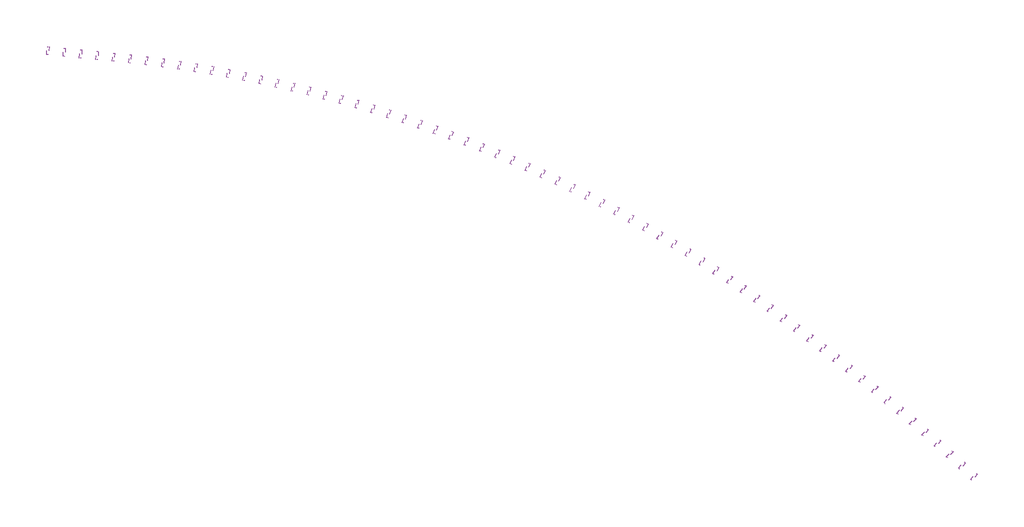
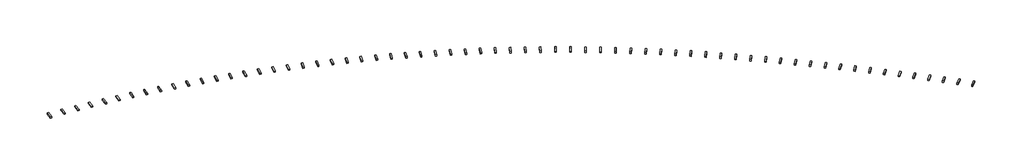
# One storey: 64 proxies.
"""IFC4 building model written with IfcOpenShell, lengths in millimetres."""

from ifc_helpers import new_model, si_unit, origin, place, context, project, spatial, transform, mapped, element, save
from components import generic_models_9758f732

model = new_model("IFC4")

# Units and contexts
model_context = context("Model", 3, world=origin())
ifc_project = project(units=[si_unit("LENGTHUNIT", "METRE", prefix="MILLI")], contexts=[model_context])

# Site, building, storey
site = spatial("IfcSite", under=ifc_project)
building = spatial("IfcBuilding", under=site)
storey = spatial("IfcBuildingStorey", under=building, Name="标高 2", Elevation=4000.0)

# Proxies
placement = place(None, origin())
generic_models_shape = generic_models_9758f732(model_context)
element("IfcBuildingElementProxy", 1, Name="Dynamo自动放置和旋转构件 : Dynamo自动放置和旋转构件", ObjectType="Dynamo自动放置和旋转构件 : Dynamo自动放置和旋转构件", at=placement, inside=storey, context=model_context, shape_type="MappedRepresentation", body=[
    mapped(generic_models_shape, transform((-282406.83332, 131306.0226466, 59323.0), x_axis=(0.9952009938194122, -0.09785183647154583, 0.0), y_axis=(0.09785183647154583, 0.9952009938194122, 0.0), z_axis=(0.0, 0.0, 1.0))),
])
element("IfcBuildingElementProxy", 2, Name="Dynamo自动放置和旋转构件 : Dynamo自动放置和旋转构件", ObjectType="Dynamo自动放置和旋转构件 : Dynamo自动放置和旋转构件", at=placement, inside=storey, context=model_context, shape_type="MappedRepresentation", body=[
    mapped(generic_models_shape, transform((-272454.8233807, 130327.504293, 59425.4497045), x_axis=(0.9952009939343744, -0.09785183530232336, 0.0), y_axis=(0.09785183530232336, 0.9952009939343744, 0.0), z_axis=(0.0, 0.0, 1.0))),
])
element("IfcBuildingElementProxy", 3, Name="Dynamo自动放置和旋转构件 : Dynamo自动放置和旋转构件", ObjectType="Dynamo自动放置和旋转构件 : Dynamo自动放置和旋转构件", at=placement, inside=storey, context=model_context, shape_type="MappedRepresentation", body=[
    mapped(generic_models_shape, transform((-262502.8134413, 129348.9859405, 59430.8094786), x_axis=(0.9952009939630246, -0.09785183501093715, 0.0), y_axis=(0.09785183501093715, 0.9952009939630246, 0.0), z_axis=(0.0, 0.0, 1.0))),
])
element("IfcBuildingElementProxy", 4, Name="Dynamo自动放置和旋转构件 : Dynamo自动放置和旋转构件", ObjectType="Dynamo自动放置和旋转构件 : Dynamo自动放置和旋转构件", at=placement, inside=storey, context=model_context, shape_type="MappedRepresentation", body=[
    mapped(generic_models_shape, transform((-252550.8034995, 128370.4675867, 59339.0774996), x_axis=(0.9952009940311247, -0.09785183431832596, 0.0), y_axis=(0.09785183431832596, 0.9952009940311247, 0.0), z_axis=(0.0, 0.0, 1.0))),
])
element("IfcBuildingElementProxy", 5, Name="Dynamo自动放置和旋转构件 : Dynamo自动放置和旋转构件", ObjectType="Dynamo自动放置和旋转构件 : Dynamo自动放置和旋转构件", at=placement, inside=storey, context=model_context, shape_type="MappedRepresentation", body=[
    mapped(generic_models_shape, transform((-242598.7928168, 127391.9568191, 59150.2215658), x_axis=(0.9952079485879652, -0.09778107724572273, 0.0), y_axis=(0.09778107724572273, 0.9952079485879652, 0.0), z_axis=(0.0, 0.0, 1.0))),
])
element("IfcBuildingElementProxy", 6, Name="Dynamo自动放置和旋转构件 : Dynamo自动放置和旋转构件", ObjectType="Dynamo自动放置和旋转构件 : Dynamo自动放置和旋转构件", at=placement, inside=storey, context=model_context, shape_type="MappedRepresentation", body=[
    mapped(generic_models_shape, transform((-232652.1536319, 126360.8787995, 58905.5920636), x_axis=(0.9940115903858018, -0.1092746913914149, 0.0), y_axis=(0.1092746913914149, 0.9940115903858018, 0.0), z_axis=(0.0, 0.0, 1.0))),
])
element("IfcBuildingElementProxy", 7, Name="Dynamo自动放置和旋转构件 : Dynamo自动放置和旋转构件", ObjectType="Dynamo自动放置和旋转构件 : Dynamo自动放置和旋转构件", at=placement, inside=storey, context=model_context, shape_type="MappedRepresentation", body=[
    mapped(generic_models_shape, transform((-222719.1261665, 125206.0360671, 58660.6113442), x_axis=(0.992568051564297, -0.12169085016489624, 0.0), y_axis=(0.12169085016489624, 0.992568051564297, 0.0), z_axis=(0.0, 0.0, 1.0))),
])
element("IfcBuildingElementProxy", 8, Name="Dynamo自动放置和旋转构件 : Dynamo自动放置和旋转构件", ObjectType="Dynamo自动放置和旋转构件 : Dynamo自动放置和旋转构件", at=placement, inside=storey, context=model_context, shape_type="MappedRepresentation", body=[
    mapped(generic_models_shape, transform((-212801.3096286, 123927.1251748, 58415.6306189), x_axis=(0.9909694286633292, -0.13408799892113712, 0.0), y_axis=(0.13408799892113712, 0.9909694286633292, 0.0), z_axis=(0.0, 0.0, 1.0))),
])
element("IfcBuildingElementProxy", 9, Name="Dynamo自动放置和旋转构件 : Dynamo自动放置和旋转构件", ObjectType="Dynamo自动放置和旋转构件 : Dynamo自动放置和旋转构件", at=placement, inside=storey, context=model_context, shape_type="MappedRepresentation", body=[
    mapped(generic_models_shape, transform((-202900.2537048, 122524.3459535, 58170.6498901), x_axis=(0.9892159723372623, -0.14646419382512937, 0.0), y_axis=(0.14646419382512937, 0.9892159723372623, 0.0), z_axis=(0.0, 0.0, 1.0))),
])
element("IfcBuildingElementProxy", 10, Name="Dynamo自动放置和旋转构件 : Dynamo自动放置和旋转构件", ObjectType="Dynamo自动放置和旋转构件 : Dynamo自动放置和旋转构件", at=placement, inside=storey, context=model_context, shape_type="MappedRepresentation", body=[
    mapped(generic_models_shape, transform((-193017.5053845, 120997.917578, 57925.6691582), x_axis=(0.9873079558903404, -0.15881750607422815, 0.0), y_axis=(0.15881750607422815, 0.9873079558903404, 0.0), z_axis=(0.0, 0.0, 1.0))),
])
element("IfcBuildingElementProxy", 11, Name="Dynamo自动放置和旋转构件 : Dynamo自动放置和旋转构件", ObjectType="Dynamo自动放置和旋转构件 : Dynamo自动放置和旋转构件", at=placement, inside=storey, context=model_context, shape_type="MappedRepresentation", body=[
    mapped(generic_models_shape, transform((-183154.6087964, 119348.0785425, 57680.6884235), x_axis=(0.9852456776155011, -0.1711460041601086, 0.0), y_axis=(0.1711460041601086, 0.9852456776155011, 0.0), z_axis=(0.0, 0.0, 1.0))),
])
element("IfcBuildingElementProxy", 12, Name="Dynamo自动放置和旋转构件 : Dynamo自动放置和旋转构件", ObjectType="Dynamo自动放置和旋转构件 : Dynamo自动放置和旋转构件", at=placement, inside=storey, context=model_context, shape_type="MappedRepresentation", body=[
    mapped(generic_models_shape, transform((-173313.1049675, 117575.0866267, 57435.7076865), x_axis=(0.9830294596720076, -0.18344776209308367, 0.0), y_axis=(0.18344776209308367, 0.9830294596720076, 0.0), z_axis=(0.0, 0.0, 1.0))),
])
element("IfcBuildingElementProxy", 13, Name="Dynamo自动放置和旋转构件 : Dynamo自动放置和旋转构件", ObjectType="Dynamo自动放置和旋转构件 : Dynamo自动放置和旋转构件", at=placement, inside=storey, context=model_context, shape_type="MappedRepresentation", body=[
    mapped(generic_models_shape, transform((-163494.5315824, 115679.2188485, 57190.7269476), x_axis=(0.9806596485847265, -0.19572085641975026, 0.0), y_axis=(0.19572085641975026, 0.9806596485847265, 0.0), z_axis=(0.0, 0.0, 1.0))),
])
element("IfcBuildingElementProxy", 14, Name="Dynamo自动放置和旋转构件 : Dynamo自动放置和旋转构件", ObjectType="Dynamo自动放置和旋转构件 : Dynamo自动放置和旋转构件", at=placement, inside=storey, context=model_context, shape_type="MappedRepresentation", body=[
    mapped(generic_models_shape, transform((-153700.4227431, 113660.7714272, 56945.7462071), x_axis=(0.9781366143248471, -0.20796337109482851, 0.0), y_axis=(0.20796337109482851, 0.9781366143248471, 0.0), z_axis=(0.0, 0.0, 1.0))),
])
element("IfcBuildingElementProxy", 15, Name="Dynamo自动放置和旋转构件 : Dynamo自动放置和旋转构件", ObjectType="Dynamo自动放置和旋转构件 : Dynamo自动放置和旋转构件", at=placement, inside=storey, context=model_context, shape_type="MappedRepresentation", body=[
    mapped(generic_models_shape, transform((-143932.3087286, 111520.0597349, 56700.7654654), x_axis=(0.9754607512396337, -0.22017339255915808, 0.0), y_axis=(0.22017339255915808, 0.9754607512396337, 0.0), z_axis=(0.0, 0.0, 1.0))),
])
element("IfcBuildingElementProxy", 16, Name="Dynamo自动放置和旋转构件 : Dynamo自动放置和旋转构件", ObjectType="Dynamo自动放置和旋转构件 : Dynamo自动放置和旋转构件", at=placement, inside=storey, context=model_context, shape_type="MappedRepresentation", body=[
    mapped(generic_models_shape, transform((-134191.715757, 109257.4182454, 56455.7847229), x_axis=(0.9726324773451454, -0.23234901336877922, 0.0), y_axis=(0.23234901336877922, 0.9726324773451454, 0.0), z_axis=(0.0, 0.0, 1.0))),
])
element("IfcBuildingElementProxy", 17, Name="Dynamo自动放置和旋转构件 : Dynamo自动放置和旋转构件", ObjectType="Dynamo自动放置和旋转构件 : Dynamo自动放置和旋转构件", at=placement, inside=storey, context=model_context, shape_type="MappedRepresentation", body=[
    mapped(generic_models_shape, transform((-124480.1657459, 106873.2004845, 56210.80398), x_axis=(0.9696522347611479, -0.24448833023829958, 0.0), y_axis=(0.24448833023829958, 0.9696522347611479, 0.0), z_axis=(0.0, 0.0, 1.0))),
])
element("IfcBuildingElementProxy", 18, Name="Dynamo自动放置和旋转构件 : Dynamo自动放置和旋转构件", ObjectType="Dynamo自动放置和旋转构件 : Dynamo自动放置和旋转构件", at=placement, inside=storey, context=model_context, shape_type="MappedRepresentation", body=[
    mapped(generic_models_shape, transform((-114799.1760751, 104367.7789743, 55965.8232372), x_axis=(0.9665204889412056, -0.2565894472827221, 0.0), y_axis=(0.2565894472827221, 0.9665204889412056, 0.0), z_axis=(0.0, 0.0, 1.0))),
])
element("IfcBuildingElementProxy", 19, Name="Dynamo自动放置和旋转构件 : Dynamo自动放置和旋转构件", ObjectType="Dynamo自动放置和旋转构件 : Dynamo自动放置和旋转构件", at=placement, inside=storey, context=model_context, shape_type="MappedRepresentation", body=[
    mapped(generic_models_shape, transform((-105150.2593496, 101741.5451744, 55720.8424947), x_axis=(0.9632377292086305, -0.2686504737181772, 0.0), y_axis=(0.2686504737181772, 0.9632377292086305, 0.0), z_axis=(0.0, 0.0, 1.0))),
])
element("IfcBuildingElementProxy", 20, Name="Dynamo自动放置和旋转构件 : Dynamo自动放置和旋转构件", ObjectType="Dynamo自动放置和旋转构件 : Dynamo自动放置和旋转构件", at=placement, inside=storey, context=model_context, shape_type="MappedRepresentation", body=[
    mapped(generic_models_shape, transform((-95534.9231629, 98994.9094199, 55475.861753), x_axis=(0.9598044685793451, -0.28066952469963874, 0.0), y_axis=(0.28066952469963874, 0.9598044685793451, 0.0), z_axis=(0.0, 0.0, 1.0))),
])
element("IfcBuildingElementProxy", 21, Name="Dynamo自动放置和旋转构件 : Dynamo自动放置和旋转构件", ObjectType="Dynamo自动放置和旋转构件 : Dynamo自动放置和旋转构件", at=placement, inside=storey, context=model_context, shape_type="MappedRepresentation", body=[
    mapped(generic_models_shape, transform((-85954.6698619, 96128.3008597, 55230.8810124), x_axis=(0.9562212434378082, -0.2926447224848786, 0.0), y_axis=(0.2926447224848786, 0.9562212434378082, 0.0), z_axis=(0.0, 0.0, 1.0))),
])
element("IfcBuildingElementProxy", 22, Name="Dynamo自动放置和旋转构件 : Dynamo自动放置和旋转构件", ObjectType="Dynamo自动放置和旋转构件 : Dynamo自动放置和旋转构件", at=placement, inside=storey, context=model_context, shape_type="MappedRepresentation", body=[
    mapped(generic_models_shape, transform((-76410.9963119, 93142.1673865, 54985.9002734), x_axis=(0.9524886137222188, -0.30457419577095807, 0.0), y_axis=(0.30457419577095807, 0.9524886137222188, 0.0), z_axis=(0.0, 0.0, 1.0))),
])
element("IfcBuildingElementProxy", 23, Name="Dynamo自动放置和旋转构件 : Dynamo自动放置和旋转构件", ObjectType="Dynamo自动放置和旋转构件 : Dynamo自动放置和旋转构件", at=placement, inside=storey, context=model_context, shape_type="MappedRepresentation", body=[
    mapped(generic_models_shape, transform((-66905.3936621, 90036.9755705, 54740.9195364), x_axis=(0.9486071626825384, -0.31645608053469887, 0.0), y_axis=(0.31645608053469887, 0.9486071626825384, 0.0), z_axis=(0.0, 0.0, 1.0))),
])
element("IfcBuildingElementProxy", 24, Name="Dynamo自动放置和旋转构件 : Dynamo自动放置和旋转构件", ObjectType="Dynamo自动放置和旋转构件 : Dynamo自动放置和旋转构件", at=placement, inside=storey, context=model_context, shape_type="MappedRepresentation", body=[
    mapped(generic_models_shape, transform((-57439.3471142, 86813.2105816, 54495.9388017), x_axis=(0.9445774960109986, -0.32828852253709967, 0.0), y_axis=(0.32828852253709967, 0.9445774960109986, 0.0), z_axis=(0.0, 0.0, 1.0))),
])
element("IfcBuildingElementProxy", 25, Name="Dynamo自动放置和旋转构件 : Dynamo自动放置和旋转构件", ObjectType="Dynamo自动放置和旋转构件 : Dynamo自动放置和旋转构件", at=placement, inside=storey, context=model_context, shape_type="MappedRepresentation", body=[
    mapped(generic_models_shape, transform((-48014.3356888, 83471.3761186, 54250.9580697), x_axis=(0.9404002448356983, -0.3400696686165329, 0.0), y_axis=(0.3400696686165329, 0.9404002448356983, 0.0), z_axis=(0.0, 0.0, 1.0))),
])
element("IfcBuildingElementProxy", 26, Name="Dynamo自动放置和旋转构件 : Dynamo自动放置和旋转构件", ObjectType="Dynamo自动放置和旋转构件 : Dynamo自动放置和旋转构件", at=placement, inside=storey, context=model_context, shape_type="MappedRepresentation", body=[
    mapped(generic_models_shape, transform((-38631.8319946, 80011.9943272, 54005.9773408), x_axis=(0.9360760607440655, -0.3517976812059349, 0.0), y_axis=(0.3517976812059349, 0.9360760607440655, 0.0), z_axis=(0.0, 0.0, 1.0))),
])
element("IfcBuildingElementProxy", 27, Name="Dynamo自动放置和旋转构件 : Dynamo自动放置和旋转构件", ObjectType="Dynamo自动放置和旋转构件 : Dynamo自动放置和旋转构件", at=placement, inside=storey, context=model_context, shape_type="MappedRepresentation", body=[
    mapped(generic_models_shape, transform((-29293.3019993, 76435.6057192, 53760.9966154), x_axis=(0.9316056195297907, -0.3634707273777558, 0.0), y_axis=(0.3634707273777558, 0.9316056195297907, 0.0), z_axis=(0.0, 0.0, 1.0))),
])
element("IfcBuildingElementProxy", 28, Name="Dynamo自动放置和旋转构件 : Dynamo自动放置和旋转构件", ObjectType="Dynamo自动放置和旋转构件 : Dynamo自动放置和旋转构件", at=placement, inside=storey, context=model_context, shape_type="MappedRepresentation", body=[
    mapped(generic_models_shape, transform((-20000.2047992, 72742.7690887, 53516.0158939), x_axis=(0.9269896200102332, -0.3750869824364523, 0.0), y_axis=(0.3750869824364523, 0.9269896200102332, 0.0), z_axis=(0.0, 0.0, 1.0))),
])
element("IfcBuildingElementProxy", 29, Name="Dynamo自动放置和旋转构件 : Dynamo自动放置和旋转构件", ObjectType="Dynamo自动放置和旋转构件 : Dynamo自动放置和旋转构件", at=placement, inside=storey, context=model_context, shape_type="MappedRepresentation", body=[
    mapped(generic_models_shape, transform((-10753.992392, 68934.0614245, 53271.0351767), x_axis=(0.9222287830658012, -0.38664463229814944, 0.0), y_axis=(0.38664463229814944, 0.9222287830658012, 0.0), z_axis=(0.0, 0.0, 1.0))),
])
element("IfcBuildingElementProxy", 30, Name="Dynamo自动放置和旋转构件 : Dynamo自动放置和旋转构件", ObjectType="Dynamo自动放置和旋转构件 : Dynamo自动放置和旋转构件", at=placement, inside=storey, context=model_context, shape_type="MappedRepresentation", body=[
    mapped(generic_models_shape, transform((-1556.1094497, 65010.07782, 53026.0544642), x_axis=(0.9173238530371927, -0.39814187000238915, 0.0), y_axis=(0.39814187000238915, 0.9173238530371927, 0.0), z_axis=(0.0, 0.0, 1.0))),
])
element("IfcBuildingElementProxy", 31, Name="Dynamo自动放置和旋转构件 : Dynamo自动放置和旋转构件", ObjectType="Dynamo自动放置和旋转构件 : Dynamo自动放置和旋转构件", at=placement, inside=storey, context=model_context, shape_type="MappedRepresentation", body=[
    mapped(generic_models_shape, transform((7592.0069072, 60971.4313795, 52781.0737567), x_axis=(0.9122755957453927, -0.4095769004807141, 0.0), y_axis=(0.4095769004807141, 0.9122755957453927, 0.0), z_axis=(0.0, 0.0, 1.0))),
])
element("IfcBuildingElementProxy", 32, Name="Dynamo自动放置和旋转构件 : Dynamo自动放置和旋转构件", ObjectType="Dynamo自动放置和旋转构件 : Dynamo自动放置和旋转构件", at=placement, inside=storey, context=model_context, shape_type="MappedRepresentation", body=[
    mapped(generic_models_shape, transform((16688.9273335, 56818.7531225, 52536.0930546), x_axis=(0.9070848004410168, -0.42094793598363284, 0.0), y_axis=(0.42094793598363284, 0.9070848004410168, 0.0), z_axis=(0.0, 0.0, 1.0))),
])
element("IfcBuildingElementProxy", 33, Name="Dynamo自动放置和旋转构件 : Dynamo自动放置和旋转构件", ObjectType="Dynamo自动放置和旋转构件 : Dynamo自动放置和旋转构件", at=placement, inside=storey, context=model_context, shape_type="MappedRepresentation", body=[
    mapped(generic_models_shape, transform((25733.2259747, 52552.6824389, 52291.112358), x_axis=(0.9017505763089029, -0.43225675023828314, 0.0), y_axis=(0.43225675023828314, 0.9017505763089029, 0.0), z_axis=(0.0, 0.0, 1.0))),
])
element("IfcBuildingElementProxy", 34, Name="Dynamo自动放置和旋转构件 : Dynamo自动放置和旋转构件", ObjectType="Dynamo自动放置和旋转构件 : Dynamo自动放置和旋转构件", at=placement, inside=storey, context=model_context, shape_type="MappedRepresentation", body=[
    mapped(generic_models_shape, transform((34723.4813195, 48173.8690396, 52046.1316587), x_axis=(0.8962770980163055, -0.44349449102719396, 0.0), y_axis=(0.44349449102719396, 0.8962770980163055, 0.0), z_axis=(0.0, 0.0, 1.0))),
])
element("IfcBuildingElementProxy", 35, Name="Dynamo自动放置和旋转构件 : Dynamo自动放置和旋转构件", ObjectType="Dynamo自动放置和旋转构件 : Dynamo自动放置和旋转构件", at=placement, inside=storey, context=model_context, shape_type="MappedRepresentation", body=[
    mapped(generic_models_shape, transform((43658.3011335, 43683.0235912, 51801.1509537), x_axis=(0.8906635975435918, -0.4546629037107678, 0.0), y_axis=(0.4546629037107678, 0.8906635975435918, 0.0), z_axis=(0.0, 0.0, 1.0))),
])
element("IfcBuildingElementProxy", 36, Name="Dynamo自动放置和旋转构件 : Dynamo自动放置和旋转构件", ObjectType="Dynamo自动放置和旋转构件 : Dynamo自动放置和旋转构件", at=placement, inside=storey, context=model_context, shape_type="MappedRepresentation", body=[
    mapped(generic_models_shape, transform((52536.2893964, 39080.847763, 51556.1702435), x_axis=(0.8849109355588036, -0.46576027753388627, 0.0), y_axis=(0.46576027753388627, 0.8849109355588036, 0.0), z_axis=(0.0, 0.0, 1.0))),
])
element("IfcBuildingElementProxy", 37, Name="Dynamo自动放置和旋转构件 : Dynamo自动放置和旋转构件", ObjectType="Dynamo自动放置和旋转构件 : Dynamo自动放置和旋转构件", at=placement, inside=storey, context=model_context, shape_type="MappedRepresentation", body=[
    mapped(generic_models_shape, transform((61356.0589671, 34368.0606186, 51311.1895285), x_axis=(0.8790200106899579, -0.4767848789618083, 0.0), y_axis=(0.4767848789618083, 0.8790200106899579, 0.0), z_axis=(0.0, 0.0, 1.0))),
])
element("IfcBuildingElementProxy", 38, Name="Dynamo自动放置和旋转构件 : Dynamo自动放置和旋转构件", ObjectType="Dynamo自动放置和旋转构件 : Dynamo自动放置和旋转构件", at=placement, inside=storey, context=model_context, shape_type="MappedRepresentation", body=[
    mapped(generic_models_shape, transform((70116.2318011, 29545.3985044, 51066.208809), x_axis=(0.8729917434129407, -0.48773498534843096, 0.0), y_axis=(0.48773498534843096, 0.8729917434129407, 0.0), z_axis=(0.0, 0.0, 1.0))),
])
element("IfcBuildingElementProxy", 39, Name="Dynamo自动放置和旋转构件 : Dynamo自动放置和旋转构件", ObjectType="Dynamo自动放置和旋转构件 : Dynamo自动放置和旋转构件", at=placement, inside=storey, context=model_context, shape_type="MappedRepresentation", body=[
    mapped(generic_models_shape, transform((78815.4391656, 24613.6149346, 50821.2280854), x_axis=(0.8668270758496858, -0.4986088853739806, 0.0), y_axis=(0.4986088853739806, 0.8668270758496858, 0.0), z_axis=(0.0, 0.0, 1.0))),
])
element("IfcBuildingElementProxy", 40, Name="Dynamo自动放置和旋转构件 : Dynamo自动放置和旋转构件", ObjectType="Dynamo自动放置和旋转构件 : Dynamo自动放置和旋转构件", at=placement, inside=storey, context=model_context, shape_type="MappedRepresentation", body=[
    mapped(generic_models_shape, transform((87452.3218534, 19573.4804734, 50576.2473581), x_axis=(0.8605269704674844, -0.5094048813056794, 0.0), y_axis=(0.5094048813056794, 0.8605269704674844, 0.0), z_axis=(0.0, 0.0, 1.0))),
])
element("IfcBuildingElementProxy", 41, Name="Dynamo自动放置和旋转构件 : Dynamo自动放置和旋转构件", ObjectType="Dynamo自动放置和旋转构件 : Dynamo自动放置和旋转构件", at=placement, inside=storey, context=model_context, shape_type="MappedRepresentation", body=[
    mapped(generic_models_shape, transform((96025.5303949, 14425.782614, 50331.2666275), x_axis=(0.8540924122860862, -0.5201212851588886, 0.0), y_axis=(0.5201212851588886, 0.8540924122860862, 0.0), z_axis=(0.0, 0.0, 1.0))),
])
element("IfcBuildingElementProxy", 42, Name="Dynamo自动放置和旋转构件 : Dynamo自动放置和旋转构件", ObjectType="Dynamo自动放置和旋转构件 : Dynamo自动放置和旋转构件", at=placement, inside=storey, context=model_context, shape_type="MappedRepresentation", body=[
    mapped(generic_models_shape, transform((104533.7251995, 9171.325701, 50086.2858961), x_axis=(0.8475244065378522, -0.530756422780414, 0.0), y_axis=(0.530756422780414, 0.8475244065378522, 0.0), z_axis=(0.0, 0.0, 1.0))),
])
element("IfcBuildingElementProxy", 43, Name="Dynamo自动放置和旋转构件 : Dynamo自动放置和旋转构件", ObjectType="Dynamo自动放置和旋转构件 : Dynamo自动放置和旋转构件", at=placement, inside=storey, context=model_context, shape_type="MappedRepresentation", body=[
    mapped(generic_models_shape, transform((112975.5771162, 3810.9305819, 49841.3051581), x_axis=(0.8408239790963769, -0.5413086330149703, 0.0), y_axis=(0.5413086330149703, 0.8408239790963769, 0.0), z_axis=(0.0, 0.0, 1.0))),
])
element("IfcBuildingElementProxy", 44, Name="Dynamo自动放置和旋转构件 : Dynamo自动放置和旋转构件", ObjectType="Dynamo自动放置和旋转构件 : Dynamo自动放置和旋转构件", at=placement, inside=storey, context=model_context, shape_type="MappedRepresentation", body=[
    mapped(generic_models_shape, transform((121349.7669365, -1654.5650775, 49596.3244199), x_axis=(0.8339921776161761, -0.5517762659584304, 0.0), y_axis=(0.5517762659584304, 0.8339921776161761, 0.0), z_axis=(0.0, 0.0, 1.0))),
])
element("IfcBuildingElementProxy", 45, Name="Dynamo自动放置和旋转构件 : Dynamo自动放置和旋转构件", ObjectType="Dynamo自动放置和旋转构件 : Dynamo自动放置和旋转构件", at=placement, inside=storey, context=model_context, shape_type="MappedRepresentation", body=[
    mapped(generic_models_shape, transform((129654.9863065, -7224.3073665, 49351.3436801), x_axis=(0.8270300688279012, -0.5621576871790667, 0.0), y_axis=(0.5621576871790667, 0.8270300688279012, 0.0), z_axis=(0.0, 0.0, 1.0))),
])
element("IfcBuildingElementProxy", 46, Name="Dynamo自动放置和旋转构件 : Dynamo自动放置和旋转构件", ObjectType="Dynamo自动放置和旋转构件 : Dynamo自动放置和旋转构件", at=placement, inside=storey, context=model_context, shape_type="MappedRepresentation", body=[
    mapped(generic_models_shape, transform((137889.9375889, -12897.426049, 49106.3629386), x_axis=(0.8199387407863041, -0.572451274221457, 0.0), y_axis=(0.572451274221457, 0.8199387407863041, 0.0), z_axis=(0.0, 0.0, 1.0))),
])
element("IfcBuildingElementProxy", 47, Name="Dynamo自动放置和旋转构件 : Dynamo自动放置和旋转构件", ObjectType="Dynamo自动放置和旋转构件 : Dynamo自动放置和旋转构件", at=placement, inside=storey, context=model_context, shape_type="MappedRepresentation", body=[
    mapped(generic_models_shape, transform((146053.334082, -18673.0347083, 48861.3821967), x_axis=(0.8127193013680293, -0.5826554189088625, 0.0), y_axis=(0.5826554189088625, 0.8127193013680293, 0.0), z_axis=(0.0, 0.0, 1.0))),
])
element("IfcBuildingElementProxy", 48, Name="Dynamo自动放置和旋转构件 : Dynamo自动放置和旋转构件", ObjectType="Dynamo自动放置和旋转构件 : Dynamo自动放置和旋转构件", at=placement, inside=storey, context=model_context, shape_type="MappedRepresentation", body=[
    mapped(generic_models_shape, transform((154143.9003295, -24550.2309569, 48616.401454), x_axis=(0.8053728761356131, -0.5927685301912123, 0.0), y_axis=(0.5927685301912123, 0.8053728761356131, 0.0), z_axis=(0.0, 0.0, 1.0))),
])
element("IfcBuildingElementProxy", 49, Name="Dynamo自动放置和旋转构件 : Dynamo自动放置和旋转构件", ObjectType="Dynamo自动放置和旋转构件 : Dynamo自动放置和旋转构件", at=placement, inside=storey, context=model_context, shape_type="MappedRepresentation", body=[
    mapped(generic_models_shape, transform((162162.8433818, -30524.8108363, 48371.420724), x_axis=(0.7997915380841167, -0.6002778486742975, 0.0), y_axis=(0.6002778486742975, 0.7997915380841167, 0.0), z_axis=(0.0, 0.0, 1.0))),
])
element("IfcBuildingElementProxy", 50, Name="Dynamo自动放置和旋转构件 : Dynamo自动放置和旋转构件", ObjectType="Dynamo自动放置和旋转构件 : Dynamo自动放置和旋转构件", at=placement, inside=storey, context=model_context, shape_type="MappedRepresentation", body=[
    mapped(generic_models_shape, transform((170160.7627751, -36527.5838759, 48126.4400305), x_axis=(0.7997921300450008, -0.6002770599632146, 0.0), y_axis=(0.6002770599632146, 0.7997921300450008, 0.0), z_axis=(0.0, 0.0, 1.0))),
])
element("IfcBuildingElementProxy", 51, Name="Dynamo自动放置和旋转构件 : Dynamo自动放置和旋转构件", ObjectType="Dynamo自动放置和旋转构件 : Dynamo自动放置和旋转构件", at=placement, inside=storey, context=model_context, shape_type="MappedRepresentation", body=[
    mapped(generic_models_shape, transform((178151.6534034, -42539.6937485, 47881.4593233), x_axis=(0.7971465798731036, -0.6037858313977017, 0.0), y_axis=(0.6037858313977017, 0.7971465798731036, 0.0), z_axis=(0.0, 0.0, 1.0))),
])
element("IfcBuildingElementProxy", 52, Name="Dynamo自动放置和旋转构件 : Dynamo自动放置和旋转构件", ObjectType="Dynamo自动放置和旋转构件 : Dynamo自动放置和旋转构件", at=placement, inside=storey, context=model_context, shape_type="MappedRepresentation", body=[
    mapped(generic_models_shape, transform((186097.8692614, -48610.6965345, 47636.4786078), x_axis=(0.7920873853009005, -0.610407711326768, 0.0), y_axis=(0.610407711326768, 0.7920873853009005, 0.0), z_axis=(0.0, 0.0, 1.0))),
])
element("IfcBuildingElementProxy", 53, Name="Dynamo自动放置和旋转构件 : Dynamo自动放置和旋转构件", ObjectType="Dynamo自动放置和旋转构件 : Dynamo自动放置和旋转构件", at=placement, inside=storey, context=model_context, shape_type="MappedRepresentation", body=[
    mapped(generic_models_shape, transform((193993.2177618, -54747.7066654, 47391.4978929), x_axis=(0.7869731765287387, -0.616987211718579, 0.0), y_axis=(0.616987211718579, 0.7869731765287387, 0.0), z_axis=(0.0, 0.0, 1.0))),
])
element("IfcBuildingElementProxy", 54, Name="Dynamo自动放置和旋转构件 : Dynamo自动放置和旋转构件", ObjectType="Dynamo自动放置和旋转构件 : Dynamo自动放置和旋转构件", at=placement, inside=storey, context=model_context, shape_type="MappedRepresentation", body=[
    mapped(generic_models_shape, transform((201837.1506175, -60950.2979501, 47146.5171789), x_axis=(0.7818043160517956, -0.6235238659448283, 0.0), y_axis=(0.6235238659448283, 0.7818043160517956, 0.0), z_axis=(0.0, 0.0, 1.0))),
])
element("IfcBuildingElementProxy", 55, Name="Dynamo自动放置和旋转构件 : Dynamo自动放置和旋转构件", ObjectType="Dynamo自动放置和旋转构件 : Dynamo自动放置和旋转构件", at=placement, inside=storey, context=model_context, shape_type="MappedRepresentation", body=[
    mapped(generic_models_shape, transform((209629.1231073, -67218.0396493, 46901.5364657), x_axis=(0.7765811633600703, -0.6300172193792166, 0.0), y_axis=(0.6300172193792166, 0.7765811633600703, 0.0), z_axis=(0.0, 0.0, 1.0))),
])
element("IfcBuildingElementProxy", 56, Name="Dynamo自动放置和旋转构件 : Dynamo自动放置和旋转构件", ObjectType="Dynamo自动放置和旋转构件 : Dynamo自动放置和旋转构件", at=placement, inside=storey, context=model_context, shape_type="MappedRepresentation", body=[
    mapped(generic_models_shape, transform((217368.5941178, -73550.4965001, 46656.5736234), x_axis=(0.7713040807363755, -0.6364668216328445, 0.0), y_axis=(0.6364668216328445, 0.7713040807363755, 0.0), z_axis=(0.0, 0.0, 1.0))),
])
element("IfcBuildingElementProxy", 57, Name="Dynamo自动放置和旋转构件 : Dynamo自动放置和旋转构件", ObjectType="Dynamo自动放置和旋转构件 : Dynamo自动放置和旋转构件", at=placement, inside=storey, context=model_context, shape_type="MappedRepresentation", body=[
    mapped(generic_models_shape, transform((225055.0261387, -79947.2287968, 46424.3211437), x_axis=(0.7659734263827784, -0.6428722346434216, 0.0), y_axis=(0.6428722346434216, 0.7659734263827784, 0.0), z_axis=(0.0, 0.0, 1.0))),
])
element("IfcBuildingElementProxy", 58, Name="Dynamo自动放置和旋转构件 : Dynamo自动放置和旋转构件", ObjectType="Dynamo自动放置和旋转构件 : Dynamo自动放置和旋转构件", at=placement, inside=storey, context=model_context, shape_type="MappedRepresentation", body=[
    mapped(generic_models_shape, transform((232687.8853296, -86407.7923837, 46217.0794908), x_axis=(0.7605895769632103, -0.6492330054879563, 0.0), y_axis=(0.6492330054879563, 0.7605895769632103, 0.0), z_axis=(0.0, 0.0, 1.0))),
])
element("IfcBuildingElementProxy", 59, Name="Dynamo自动放置和旋转构件 : Dynamo自动放置和旋转构件", ObjectType="Dynamo自动放置和旋转构件 : Dynamo自动放置和旋转构件", at=placement, inside=storey, context=model_context, shape_type="MappedRepresentation", body=[
    mapped(generic_models_shape, transform((240266.6416081, -92931.7386249, 46034.8519048), x_axis=(0.7551529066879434, -0.655548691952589, 0.0), y_axis=(0.655548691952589, 0.7551529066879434, 0.0), z_axis=(0.0, 0.0, 1.0))),
])
element("IfcBuildingElementProxy", 60, Name="Dynamo自动放置和旋转构件 : Dynamo自动放置和旋转构件", ObjectType="Dynamo自动放置和旋转构件 : Dynamo自动放置和旋转构件", at=placement, inside=storey, context=model_context, shape_type="MappedRepresentation", body=[
    mapped(generic_models_shape, transform((247790.7686548, -99518.6144755, 45877.6349717), x_axis=(0.7496637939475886, -0.6618188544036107, 0.0), y_axis=(0.6618188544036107, 0.7496637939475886, 0.0), z_axis=(0.0, 0.0, 1.0))),
])
element("IfcBuildingElementProxy", 61, Name="Dynamo自动放置和旋转构件 : Dynamo自动放置和旋转构件", ObjectType="Dynamo自动放置和旋转构件 : Dynamo自动放置和旋转构件", at=placement, inside=storey, context=model_context, shape_type="MappedRepresentation", body=[
    mapped(generic_models_shape, transform((255259.7439464, -106167.9625173, 45745.425745), x_axis=(0.744122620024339, -0.6680430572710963, 0.0), y_axis=(0.6680430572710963, 0.744122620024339, 0.0), z_axis=(0.0, 0.0, 1.0))),
])
element("IfcBuildingElementProxy", 62, Name="Dynamo自动放置和旋转构件 : Dynamo自动放置和旋转构件", ObjectType="Dynamo自动放置和旋转构件 : Dynamo自动放置和旋转构件", at=placement, inside=storey, context=model_context, shape_type="MappedRepresentation", body=[
    mapped(generic_models_shape, transform((262673.0487955, -112879.3209865, 45638.2217459), x_axis=(0.7385297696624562, -0.6742208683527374, 0.0), y_axis=(0.6742208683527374, 0.7385297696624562, 0.0), z_axis=(0.0, 0.0, 1.0))),
])
element("IfcBuildingElementProxy", 63, Name="Dynamo自动放置和旋转构件 : Dynamo自动放置和旋转构件", ObjectType="Dynamo自动放置和旋转构件 : Dynamo自动放置和旋转构件", at=placement, inside=storey, context=model_context, shape_type="MappedRepresentation", body=[
    mapped(generic_models_shape, transform((270030.1683839, -119652.2238094, 45556.0209626), x_axis=(0.7328856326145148, -0.6803518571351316, 0.0), y_axis=(0.6803518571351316, 0.7328856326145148, 0.0), z_axis=(0.0, 0.0, 1.0))),
])
element("IfcBuildingElementProxy", 64, Name="Dynamo自动放置和旋转构件 : Dynamo自动放置和旋转构件", ObjectType="Dynamo自动放置和旋转构件 : Dynamo自动放置和旋转构件", at=placement, inside=storey, context=model_context, shape_type="MappedRepresentation", body=[
    mapped(generic_models_shape, transform((277330.5918002, -126486.2006333, 45498.8212237), x_axis=(0.7271906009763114, -0.686435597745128, 0.0), y_axis=(0.686435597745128, 0.7271906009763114, 0.0), z_axis=(0.0, 0.0, 1.0))),
])

save(model, "model.ifc")
